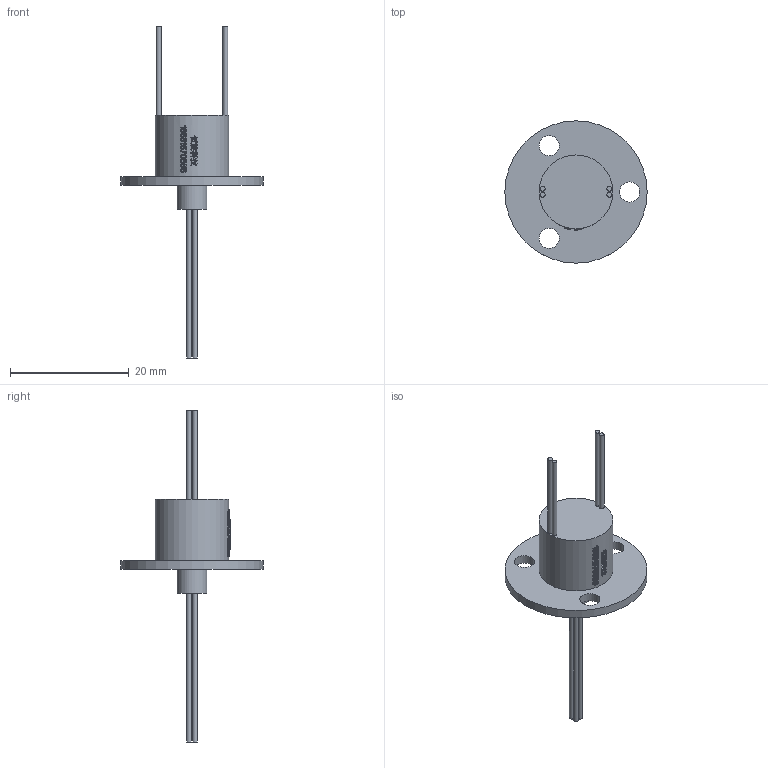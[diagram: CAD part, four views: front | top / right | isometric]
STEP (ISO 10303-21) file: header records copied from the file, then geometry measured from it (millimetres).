
FILE_DESCRIPTION(/* description */ (''),/* implementation_level */ '2;1');
FILE_NAME(/* name */ 'HM12-04.stp',/* time_stamp */ '2025-09-05T08:18:25+08:00',/* author */ (''),/* organization */ (''),/* preprocessor_version */ 'ST-DEVELOPER v16.7',/* originating_system */ 'SIEMENS PLM Software NX 12.0',/* authorisation */ '');
FILE_SCHEMA (('AUTOMOTIVE_DESIGN { 1 0 10303 214 3 1 1 1 }'));
Length unit declared in the file: millimetre
Products named in the file (1): Admi30D0F06639xl
Bounding box: 23.9 x 23.9 x 55.8 mm (x, y, z)
Volume: 2035.7 mm3; surface area: 1889 mm2
Topology: 1 solids, 1 shells, 555 faces, 1520 edges, 1014 vertices
Faces by surface type: extrusion 311, plane 193, bspline 26, cylinder 25
Full cylindrical faces by diameter (mm): 0.8 x8, 3.4 x3, 5 x1, 12.4 x1, 23.9 x1
Entity records: 23547 total; most frequent: CARTESIAN_POINT 11863, ORIENTED_EDGE 3008, B_SPLINE_CURVE_WITH_KNOTS 1557, EDGE_CURVE 1504, DIRECTION 1167, VERTEX_POINT 1012, EDGE_LOOP 622, ADVANCED_FACE 555
